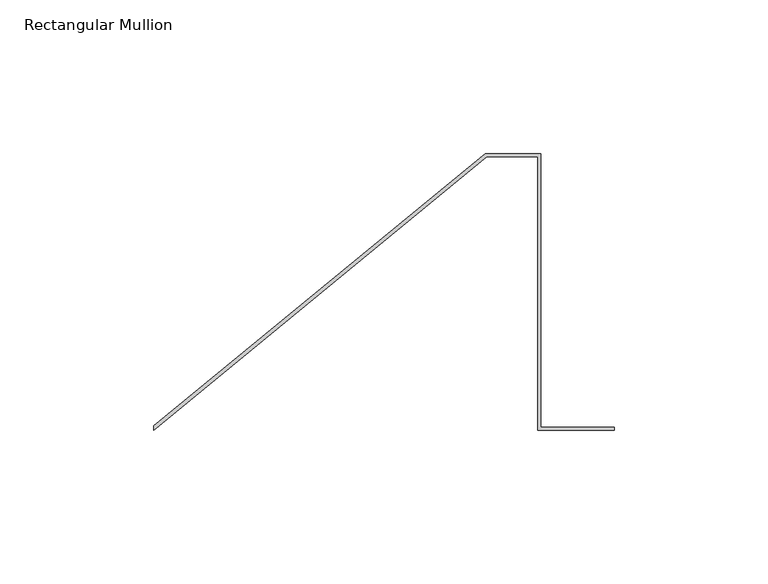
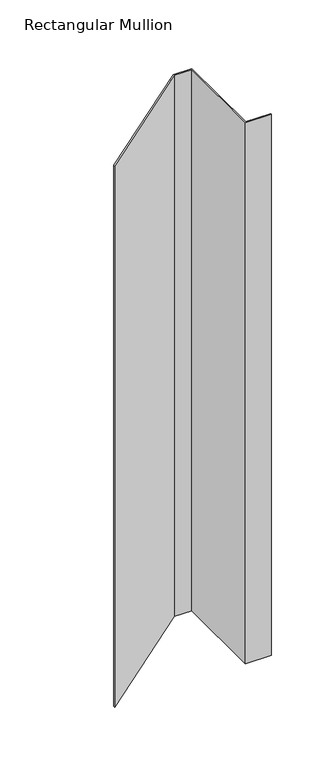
"""IFC4 building model written with IfcOpenShell, lengths in millimetres: member geometry, Rectangular Mullion : CD_NINELINE_Sawtooth Start Intermediate."""

from ifc_helpers import new_model, si_unit, frame, origin, place, context, project, spatial, polyline, outline, extrude, source, transform, mapped, element, save


def rectangular_mullion_a97d78b0(model_context):
    return source(origin(), model_context, "Body", "SweptSolid", [
        extrude(outline(polyline([(58.5, 0.0), (58.5, 89.0), (41.9195723, 89.0), (-66.5, 0.0), (-66.5, 1.337022), (41.5090129, 90.0), (59.5, 90.0), (59.5, 1.0), (83.5, 1.0), (83.5, 0.0), (58.5, 0.0)])), frame((0.0, 0.0, -548.0), z_axis=(0.0, 0.0, 1.0), x_axis=(1.0, 0.0, 0.0)), (0.0, 0.0, 1.0), 548.0),
    ])


if __name__ == "__main__":
    model = new_model("IFC4")
    model_context = context("Model", 3, world=origin())
    ifc_project = project(units=[si_unit("LENGTHUNIT", "METRE", prefix="MILLI")], contexts=[model_context])
    site = spatial("IfcSite", under=ifc_project)
    building = spatial("IfcBuilding", under=site)
    placement = place(None, origin())
    rectangular_mullion_shape = rectangular_mullion_a97d78b0(model_context)
    element("IfcMember", 1, ObjectType="Rectangular Mullion : CD_NINELINE_Sawtooth Start Intermediate", at=placement, inside=building, context=model_context, shape_type="MappedRepresentation", body=[
        mapped(rectangular_mullion_shape, transform((0.0, 0.0, 0.0), x_axis=(1.0, 0.0, 0.0), y_axis=(0.0, 1.0, 0.0), z_axis=(0.0, 0.0, 1.0))),
    ])
    save(model, "model.ifc")
